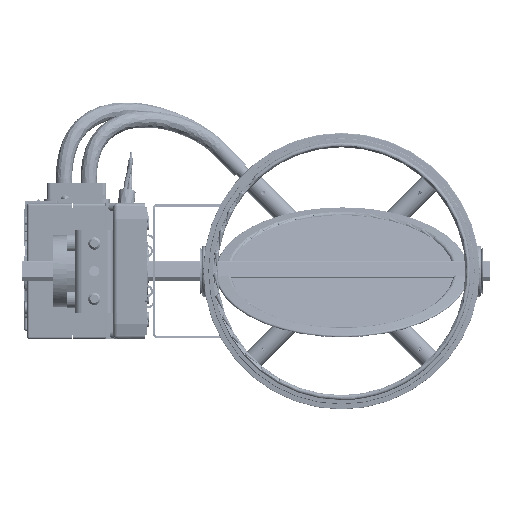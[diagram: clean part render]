
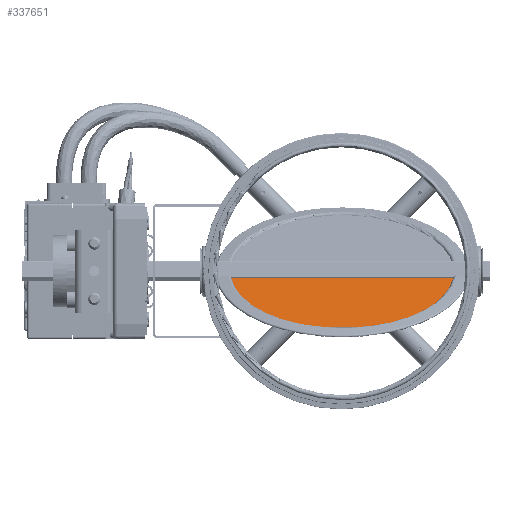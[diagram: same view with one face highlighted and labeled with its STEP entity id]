
A CAD part, left-side view. The second image highlights one B-rep face of the part: STEP entity #337651.
In plain terms, the highlighted planar face has unit normal (-0.507, 0, 0.862) as drawn and (0, 0, -1) by its records, which use the part's own axes.
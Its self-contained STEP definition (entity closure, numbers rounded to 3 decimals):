
#2735 = LINE ( 'NONE', #88712, #315111 ) ;
#27247 = ORIENTED_EDGE ( 'NONE', *, *, #95261, .T. ) ;
#40420 = CARTESIAN_POINT ( 'NONE',  ( 0., 300., -0.66 ) ) ;
#78080 = CARTESIAN_POINT ( 'NONE',  ( 6.071, 600., -0.66 ) ) ;
#88712 = CARTESIAN_POINT ( 'NONE',  ( 6.071, 600., -0.66 ) ) ;
#95261 = EDGE_CURVE ( 'NONE', #157597, #317714, #299204, .T. ) ;
#97545 = AXIS2_PLACEMENT_3D ( 'NONE', #40420, #185638, #357892 ) ;
#136149 = AXIS2_PLACEMENT_3D ( 'NONE', #78080, #139041, #221346 ) ;
#137397 = EDGE_LOOP ( 'NONE', ( #363065, #27247 ) ) ;
#139041 = DIRECTION ( 'NONE',  ( 0., 0., 1. ) ) ;
#155550 = CARTESIAN_POINT ( 'NONE',  ( 6.071, 354.065, -0.66 ) ) ;
#157597 = VERTEX_POINT ( 'NONE', #155550 ) ;
#172839 = CARTESIAN_POINT ( 'NONE',  ( 6.071, 245.935, -0.66 ) ) ;
#185638 = DIRECTION ( 'NONE',  ( 0., 0., -1. ) ) ;
#192722 = PLANE ( 'NONE',  #136149 ) ;
#221346 = DIRECTION ( 'NONE',  ( 1., 0., 0. ) ) ;
#230019 = DIRECTION ( 'NONE',  ( 0., -1., 0. ) ) ;
#234706 = EDGE_CURVE ( 'NONE', #157597, #317714, #2735, .T. ) ;
#257519 = FACE_OUTER_BOUND ( 'NONE', #137397, .T. ) ;
#299204 = CIRCLE ( 'NONE', #97545, 54.405 ) ;
#315111 = VECTOR ( 'NONE', #230019, 1000. ) ;
#317714 = VERTEX_POINT ( 'NONE', #172839 ) ;
#337651 = ADVANCED_FACE ( 'NONE', ( #257519 ), #192722, .F. ) ;
#357892 = DIRECTION ( 'NONE',  ( -1., 0., 0. ) ) ;
#363065 = ORIENTED_EDGE ( 'NONE', *, *, #234706, .F. ) ;
